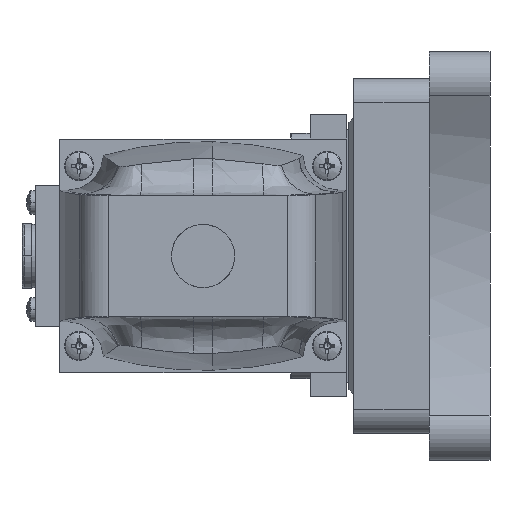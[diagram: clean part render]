
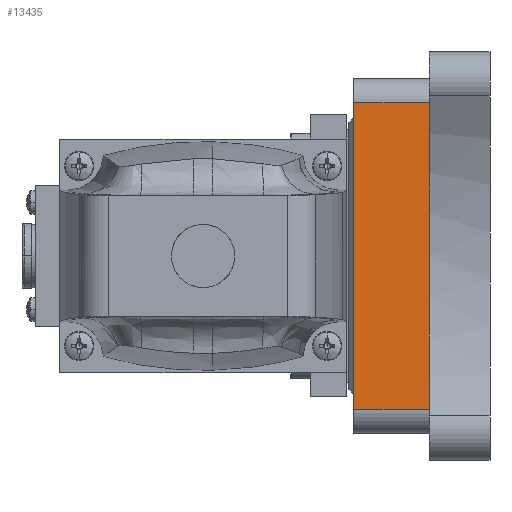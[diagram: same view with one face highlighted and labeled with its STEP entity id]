
A CAD part, left-side view. The second image highlights one B-rep face of the part: STEP entity #13435.
In plain terms, the highlighted planar face has unit normal (-1, 0, 0).
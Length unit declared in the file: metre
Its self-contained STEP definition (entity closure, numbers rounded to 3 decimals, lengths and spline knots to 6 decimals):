
#20 = CARTESIAN_POINT ( 'NONE',  ( -0.094, -0.033, 0.063 ) ) ;
#1497 = ORIENTED_EDGE ( 'NONE', *, *, #4353, .T. ) ;
#1990 = PLANE ( 'NONE',  #10179 ) ;
#2274 = DIRECTION ( 'NONE',  ( 0., 0., -1. ) ) ;
#3127 = VERTEX_POINT ( 'NONE', #20 ) ;
#3382 = CARTESIAN_POINT ( 'NONE',  ( -0.094, -0.033, -0.063 ) ) ;
#4285 = LINE ( 'NONE', #11932, #13547 ) ;
#4290 = DIRECTION ( 'NONE',  ( 0., 0., -1. ) ) ;
#4353 = EDGE_CURVE ( 'NONE', #10652, #9013, #7676, .T. ) ;
#4403 = VECTOR ( 'NONE', #8797, 1. ) ;
#4462 = CARTESIAN_POINT ( 'NONE',  ( -0.094, -0.033, 0. ) ) ;
#4899 = CARTESIAN_POINT ( 'NONE',  ( -0.094, -0.002, -0.063 ) ) ;
#5847 = EDGE_CURVE ( 'NONE', #9013, #6665, #14037, .T. ) ;
#6006 = EDGE_CURVE ( 'NONE', #3127, #11595, #12898, .T. ) ;
#6288 = ORIENTED_EDGE ( 'NONE', *, *, #15102, .F. ) ;
#6665 = VERTEX_POINT ( 'NONE', #3382 ) ;
#6925 = FACE_OUTER_BOUND ( 'NONE', #14907, .T. ) ;
#6951 = CARTESIAN_POINT ( 'NONE',  ( -0.094, -0.033, 0.063 ) ) ;
#6998 = ORIENTED_EDGE ( 'NONE', *, *, #11691, .T. ) ;
#7164 = VECTOR ( 'NONE', #10515, 1. ) ;
#7270 = VECTOR ( 'NONE', #13487, 1. ) ;
#7676 = LINE ( 'NONE', #12260, #7270 ) ;
#8197 = DIRECTION ( 'NONE',  ( 0., 0., -1. ) ) ;
#8216 = ORIENTED_EDGE ( 'NONE', *, *, #6006, .F. ) ;
#8797 = DIRECTION ( 'NONE',  ( 0., -1., 0. ) ) ;
#9013 = VERTEX_POINT ( 'NONE', #4899 ) ;
#9293 = VECTOR ( 'NONE', #4290, 1. ) ;
#9306 = CARTESIAN_POINT ( 'NONE',  ( -0.094, -0.0175, 0.063 ) ) ;
#10179 = AXIS2_PLACEMENT_3D ( 'NONE', #6951, #15452, #8197 ) ;
#10373 = LINE ( 'NONE', #9306, #7164 ) ;
#10515 = DIRECTION ( 'NONE',  ( 0., 1., 0. ) ) ;
#10652 = VERTEX_POINT ( 'NONE', #11031 ) ;
#11031 = CARTESIAN_POINT ( 'NONE',  ( -0.094, -0.002, 0.063 ) ) ;
#11205 = CARTESIAN_POINT ( 'NONE',  ( -0.094, -0.0175, -0.063 ) ) ;
#11595 = VERTEX_POINT ( 'NONE', #15204 ) ;
#11691 = EDGE_CURVE ( 'NONE', #3127, #10652, #10373, .T. ) ;
#11932 = CARTESIAN_POINT ( 'NONE',  ( -0.094, -0.033, 0. ) ) ;
#12260 = CARTESIAN_POINT ( 'NONE',  ( -0.094, -0.002, 0. ) ) ;
#12898 = LINE ( 'NONE', #4462, #9293 ) ;
#13435 = ADVANCED_FACE ( 'NONE', ( #6925 ), #1990, .F. ) ;
#13487 = DIRECTION ( 'NONE',  ( 0., 0., -1. ) ) ;
#13547 = VECTOR ( 'NONE', #2274, 1. ) ;
#14037 = LINE ( 'NONE', #11205, #4403 ) ;
#14907 = EDGE_LOOP ( 'NONE', ( #15529, #6288, #8216, #6998, #1497 ) ) ;
#15102 = EDGE_CURVE ( 'NONE', #11595, #6665, #4285, .T. ) ;
#15204 = CARTESIAN_POINT ( 'NONE',  ( -0.094, -0.033, 0. ) ) ;
#15452 = DIRECTION ( 'NONE',  ( 1., 0., 0. ) ) ;
#15529 = ORIENTED_EDGE ( 'NONE', *, *, #5847, .T. ) ;
